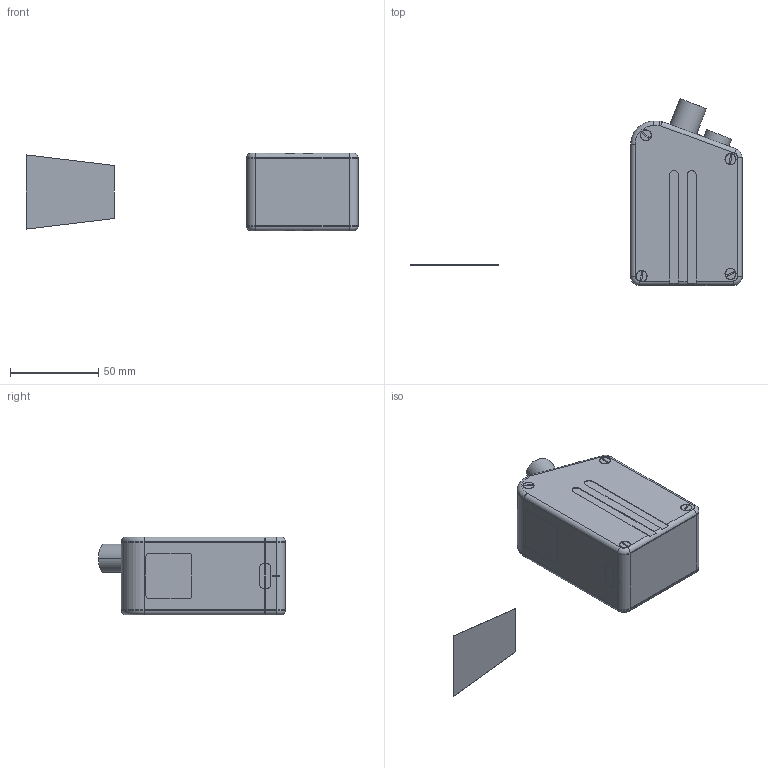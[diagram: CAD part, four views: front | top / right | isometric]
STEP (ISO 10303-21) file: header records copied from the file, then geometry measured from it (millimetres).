
FILE_DESCRIPTION (( 'STEP AP214' ), '1' );
FILE_NAME ('ÐÔ 627.70_50.000_ÑÁ ñêàíåð äëÿ ñàéòà.STEP', '2019-07-02T07:13:14', ( 'test' ), ( 'Ref' ), 'SwSTEP 2.0', 'SolidWorks 2015', '' );
FILE_SCHEMA (( 'AUTOMOTIVE_DESIGN' ));
Length unit declared in the file: millimetre
Products named in the file (27): Âèíò_Ì3x10 â ïîòàé; Submodel-FH12-32S-0.5SH_lpar_55_rpar__2555814880_part_FH12-32S-0.5SH_1; 性 625.75_ 袜觌彘赅_觏铒觇; Submodel-noModelForPart_FH12-32S-0.5SH_lpar_55_rpar__2555814880_1; RF627_80_017(1); Ðåçüáîâàÿ âòóëêà Ì6-6; Submodel-FH12-06S-1SH_lpar_55_rpar__1599555785_part_FH12-06S-1SH_1; 栺樏鋋 26-26-2 擤; Submodel-noModelForPart_FH12-06S-1SH_lpar_55_rpar__1599555785_1; placementOutline_1_3; Êðûøêà 627 â5 çåðêàëüíàÿ ïîñëåäíÿÿ; Êðûøêà 627 - â5 êðûøêà áîêîâàÿ ïîñëåäíÿÿ 1; Submodel-Binder_09-0428-30-08_3952738181_part_Binder_09-0428-30-08_1; Êîðïóñ 627 - 75-50 ñ ïàçîì ïîñëåäíåå; Submodel-noModelForPart_Binder_09-0428-30-08_3952738181_1; placementOutline_1_4; placementOutline_1_2; Submodel-1553488_341613795_part_PHOENIX_1553488_1; Submodel-noModelForPart_1553488_341613795_1; 砐錼 睯儰擯闃蠂 50; DesignRootModel_1; placementOutline_1; uid__27_1; Âèíò_Ì3x8 â ïîòàé; ÐÔ 627.70_50.000_ÑÁ ñêàíåð äëÿ ñàéòà; 栺樏鋋 14-6-2; Âèíò_Ì2õ4
Assembly tree (39 placements, depth 6):
  ÐÔ 627.70_50.000_ÑÁ ñêàíåð äëÿ ñàéòà
    RF627_80_017(1)
      DesignRootModel_1
        uid__27_1
        Submodel-1553488_341613795_part_PHOENIX_1553488_1
          Submodel-noModelForPart_1553488_341613795_1
            placementOutline_1
        Submodel-Binder_09-0428-30-08_3952738181_part_Binder_09-0428-30-08_1
          Submodel-noModelForPart_Binder_09-0428-30-08_3952738181_1
            placementOutline_1_2
        Submodel-FH12-06S-1SH_lpar_55_rpar__1599555785_part_FH12-06S-1SH_1  x2
          Submodel-noModelForPart_FH12-06S-1SH_lpar_55_rpar__1599555785_1
            placementOutline_1_3
        Submodel-FH12-32S-0.5SH_lpar_55_rpar__2555814880_part_FH12-32S-0.5SH_1
          Submodel-noModelForPart_FH12-32S-0.5SH_lpar_55_rpar__2555814880_1
            placementOutline_1_4
    Êîðïóñ 627 - 75-50 ñ ïàçîì ïîñëåäíåå
    Êðûøêà 627 - â5 êðûøêà áîêîâàÿ ïîñëåäíÿÿ 1
    Êðûøêà 627 â5 çåðêàëüíàÿ ïîñëåäíÿÿ
    Ðåçüáîâàÿ âòóëêà Ì6-6  x4
    性 625.75_ 袜觌彘赅_觏铒觇
    Âèíò_Ì2õ4  x4
    Âèíò_Ì3x10 â ïîòàé  x6
    栺樏鋋 14-6-2
    栺樏鋋 26-26-2 擤
    Âèíò_Ì3x8 â ïîòàé  x2
    砐錼 睯儰擯闃蠂 50
Bounding box: 188 x 105.9 x 44 mm (x, y, z)
Volume: 78284.8 mm3; surface area: 65009.9 mm2
Topology: 31 solids, 31 shells, 1132 faces, 2980 edges, 1932 vertices
Faces by surface type: plane 606, cylinder 300, cone 112, bspline 84, torus 30
Entity records: 34637 total; most frequent: CARTESIAN_POINT 9729, ORIENTED_EDGE 4812, DIRECTION 4574, EDGE_CURVE 2406, VECTOR 1576, LINE 1576, VERTEX_POINT 1576, AXIS2_PLACEMENT_3D 1499
